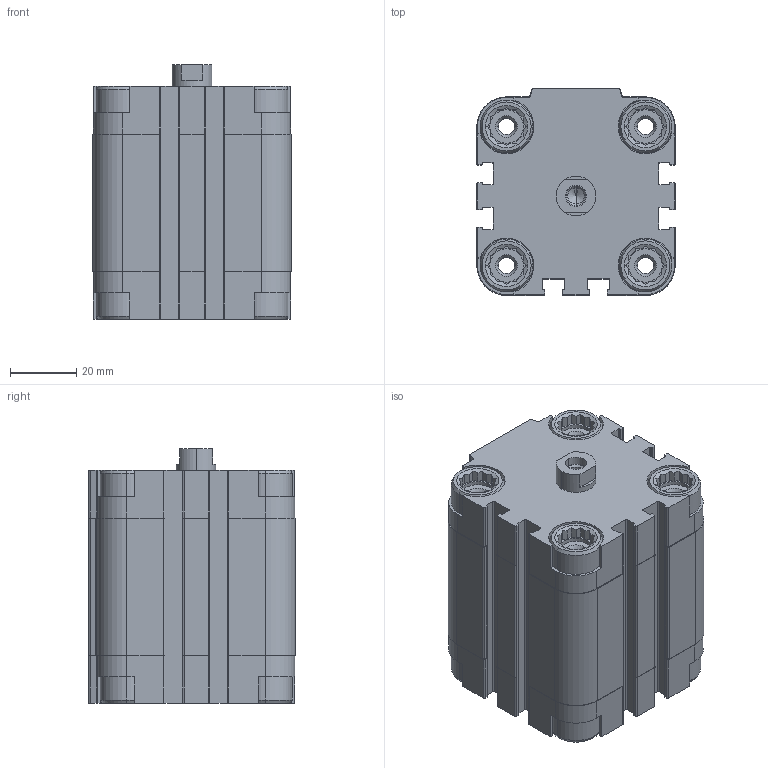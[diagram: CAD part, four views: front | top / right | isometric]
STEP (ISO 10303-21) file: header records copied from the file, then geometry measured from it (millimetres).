
FILE_DESCRIPTION (( 'STEP AP203' ), '1' );
FILE_NAME ('CDVU40-25F.STEP', '2020-03-30T14:58:56', ( '' ), ( '' ), 'SwSTEP 2.0', 'SolidWorks 2019', '' );
FILE_SCHEMA (( 'CONFIG_CONTROL_DESIGN' ));
Length unit declared in the file: millimetre
Products named in the file (1): CDVU40-25F
Bounding box: 60 x 62.5 x 77 mm (x, y, z)
Volume: 195031.2 mm3; surface area: 51485 mm2
Topology: 2 solids, 2 shells, 709 faces, 1894 edges, 1223 vertices
Faces by surface type: plane 417, cylinder 230, cone 62
Entity records: 22229 total; most frequent: CARTESIAN_POINT 4397, ORIENTED_EDGE 3776, DIRECTION 3636, EDGE_CURVE 1888, AXIS2_PLACEMENT_3D 1230, VERTEX_POINT 1223, VECTOR 1176, LINE 1176
